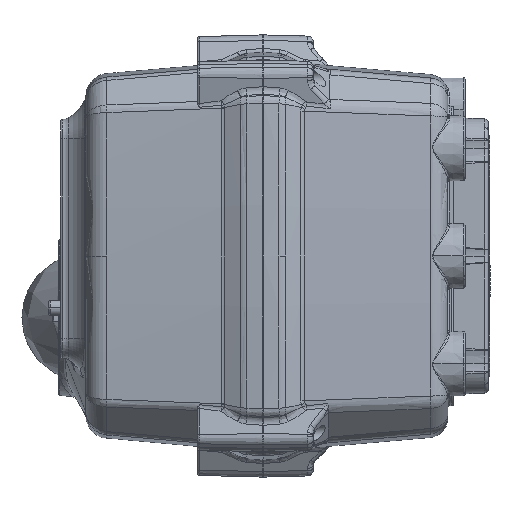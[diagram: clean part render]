
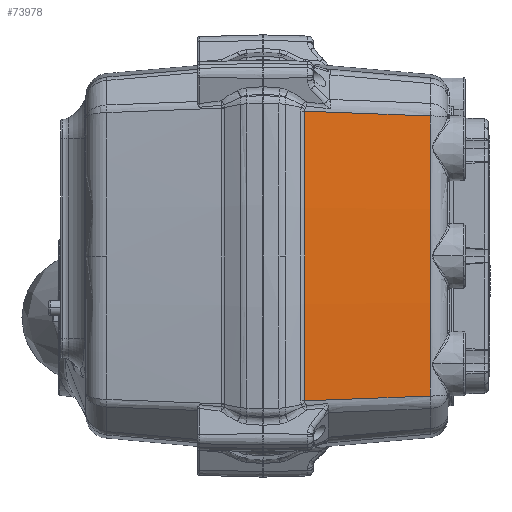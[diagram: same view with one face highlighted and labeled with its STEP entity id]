
A CAD part, left-side view. The second image highlights one B-rep face of the part: STEP entity #73978.
In plain terms, the highlighted conical face has half-angle 5 degrees and reference radius 799.555 mm.
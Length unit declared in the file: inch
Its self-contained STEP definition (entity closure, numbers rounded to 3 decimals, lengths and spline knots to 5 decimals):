
#3554 = EDGE_CURVE ( 'NONE', #60522, #150653, #142859, .T. ) ;
#13122 = CARTESIAN_POINT ( 'NONE',  ( -2.61288, -1.71007, 1.43378 ) ) ;
#18203 = CARTESIAN_POINT ( 'NONE',  ( -2.61288, -1.71007, -1.43378 ) ) ;
#22109 = CARTESIAN_POINT ( 'NONE',  ( -2.61288, -1.71007, 1.43378 ) ) ;
#24308 = ORIENTED_EDGE ( 'NONE', *, *, #135315, .T. ) ;
#30897 = DIRECTION ( 'NONE',  ( 0., 1., 0. ) ) ;
#32320 = DIRECTION ( 'NONE',  ( 0., -1., 0. ) ) ;
#42092 = DIRECTION ( 'NONE',  ( 0., -1., 0. ) ) ;
#42350 = ORIENTED_EDGE ( 'NONE', *, *, #3554, .F. ) ;
#48103 = B_SPLINE_CURVE_WITH_KNOTS ( 'NONE', 3,
 ( #13122, #123103, #60591, #170729 ),
 .UNSPECIFIED., .F., .F.,
 ( 4, 4 ),
 ( 0., 1. ),
 .UNSPECIFIED. ) ;
#51012 = VERTEX_POINT ( 'NONE', #152945 ) ;
#58316 = CARTESIAN_POINT ( 'NONE',  ( -2.64963, -1.28187, -1.45009 ) ) ;
#58979 = CARTESIAN_POINT ( 'NONE',  ( -2.72311, -0.42545, -1.48275 ) ) ;
#60522 = VERTEX_POINT ( 'NONE', #22109 ) ;
#60591 = CARTESIAN_POINT ( 'NONE',  ( -2.68638, -0.85366, 1.46637 ) ) ;
#64318 = CONICAL_SURFACE ( 'NONE', #139505, 31.47853, 0.087 ) ;
#69247 = FACE_OUTER_BOUND ( 'NONE', #77790, .T. ) ;
#72805 = ORIENTED_EDGE ( 'NONE', *, *, #126075, .F. ) ;
#73978 = ADVANCED_FACE ( 'NONE', ( #69247 ), #64318, .T. ) ;
#77790 = EDGE_LOOP ( 'NONE', ( #24308, #99146, #72805, #42350 ) ) ;
#99146 = ORIENTED_EDGE ( 'NONE', *, *, #203637, .T. ) ;
#103365 = CARTESIAN_POINT ( 'NONE',  ( -2.72311, -0.42545, 1.48275 ) ) ;
#106763 = CIRCLE ( 'NONE', #161072, 31.47853 ) ;
#121488 = CARTESIAN_POINT ( 'NONE',  ( -2.61288, -1.71007, -1.43378 ) ) ;
#122876 = B_SPLINE_CURVE_WITH_KNOTS ( 'NONE', 3,
 ( #121488, #58316, #153221, #58979 ),
 .UNSPECIFIED., .F., .F.,
 ( 4, 4 ),
 ( 0., 1. ),
 .UNSPECIFIED. ) ;
#123103 = CARTESIAN_POINT ( 'NONE',  ( -2.64963, -1.28186, 1.45005 ) ) ;
#126075 = EDGE_CURVE ( 'NONE', #150653, #51012, #122876, .T. ) ;
#126518 = CARTESIAN_POINT ( 'NONE',  ( 28.72047, -0.42545, 0. ) ) ;
#135315 = EDGE_CURVE ( 'NONE', #60522, #148783, #48103, .T. ) ;
#136275 = CARTESIAN_POINT ( 'NONE',  ( 28.72047, -1.71007, 0. ) ) ;
#139505 = AXIS2_PLACEMENT_3D ( 'NONE', #172045, #30897, #187832 ) ;
#142369 = DIRECTION ( 'NONE',  ( 0., 0., 1. ) ) ;
#142859 = CIRCLE ( 'NONE', #161792, 31.36614 ) ;
#148783 = VERTEX_POINT ( 'NONE', #103365 ) ;
#150653 = VERTEX_POINT ( 'NONE', #18203 ) ;
#152197 = DIRECTION ( 'NONE',  ( 1., 0., 0. ) ) ;
#152945 = CARTESIAN_POINT ( 'NONE',  ( -2.72311, -0.42545, -1.48275 ) ) ;
#153221 = CARTESIAN_POINT ( 'NONE',  ( -2.68638, -0.85366, -1.46641 ) ) ;
#161072 = AXIS2_PLACEMENT_3D ( 'NONE', #126518, #32320, #142369 ) ;
#161792 = AXIS2_PLACEMENT_3D ( 'NONE', #136275, #42092, #152197 ) ;
#170729 = CARTESIAN_POINT ( 'NONE',  ( -2.72311, -0.42545, 1.48275 ) ) ;
#172045 = CARTESIAN_POINT ( 'NONE',  ( 28.72047, -0.42545, 0. ) ) ;
#187832 = DIRECTION ( 'NONE',  ( 0., 0., 1. ) ) ;
#203637 = EDGE_CURVE ( 'NONE', #148783, #51012, #106763, .T. ) ;
